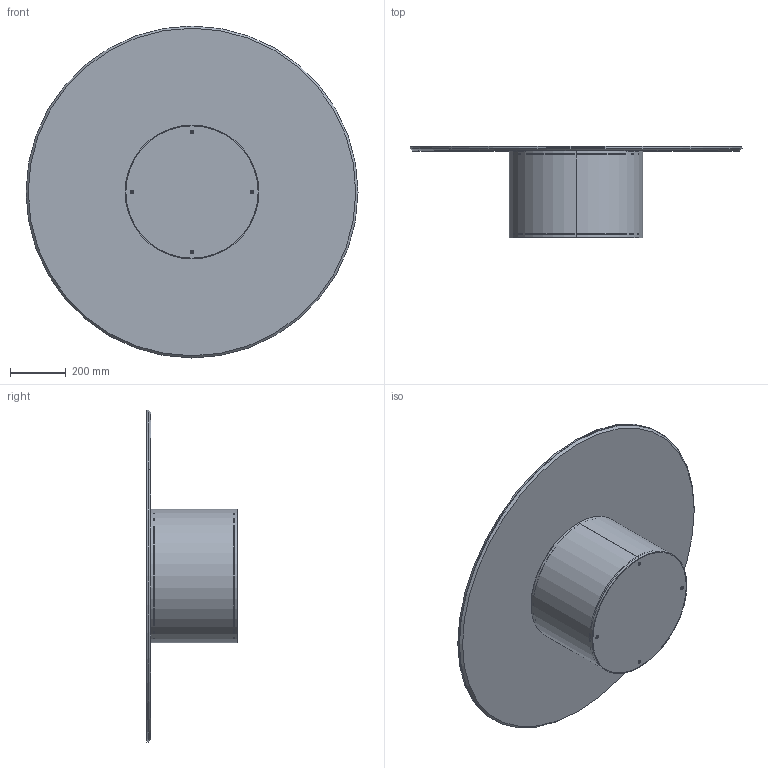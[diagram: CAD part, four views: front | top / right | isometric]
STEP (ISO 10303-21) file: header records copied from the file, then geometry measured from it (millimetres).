
FILE_DESCRIPTION (( 'STEP AP203' ), '1' );
FILE_NAME ('CL14GC.STEP', '2024-08-06T10:18:17', ( '' ), ( '' ), 'SwSTEP 2.0', 'SolidWorks 2022', '' );
FILE_SCHEMA (( 'CONFIG_CONTROL_DESIGN' ));
Length unit declared in the file: millimetre
Products named in the file (10): CLB1000000_04-00-Supporto Zavorra fusto D.48cm; CLB1000000_02-00-Fusto centrale d.48cm; M6xXXmm_HEX_M6x20mm HEX; CLB1000000_03-00-Zavorra cilindro low D.48cm; KXXCXX-00-Piani Rotondi in ceramica CON PIASTRA_K14P PIANO CERAMICA D.119cm; P0000003-00-STAFFA DI FISSAGGIO DIAMETRO 250_P0000003-250mm normale; CL14GC; CLB1000000_01-00-Supporto piano fusto D.48cm; K1XCMXX-00-Piani Rotondi in ceramica_D.1190; CLB1000000-00-CILINDRO LOW D.48cm BASE GREZZA
Assembly tree (12 placements, depth 3):
  CL14GC
    CLB1000000-00-CILINDRO LOW D.48cm BASE GREZZA
      CLB1000000_02-00-Fusto centrale d.48cm
      CLB1000000_03-00-Zavorra cilindro low D.48cm
      CLB1000000_01-00-Supporto piano fusto D.48cm
      CLB1000000_04-00-Supporto Zavorra fusto D.48cm
      M6xXXmm_HEX_M6x20mm HEX  x4
    KXXCXX-00-Piani Rotondi in ceramica CON PIASTRA_K14P PIANO CERAMICA D.119cm
      K1XCMXX-00-Piani Rotondi in ceramica_D.1190
      P0000003-00-STAFFA DI FISSAGGIO DIAMETRO 250_P0000003-250mm normale
Bounding box: 1190 x 326 x 1190 mm (x, y, z)
Volume: 21188903.1 mm3; surface area: 6181081.5 mm2
Topology: 13 solids, 13 shells, 237 faces, 509 edges, 294 vertices
Faces by surface type: plane 112, cylinder 75, cone 40, torus 8, bspline 2
Entity records: 5331 total; most frequent: CARTESIAN_POINT 1024, DIRECTION 725, ORIENTED_EDGE 606, EDGE_CURVE 303, AXIS2_PLACEMENT_3D 296, VERTEX_POINT 189, EDGE_LOOP 170, CIRCLE 146
